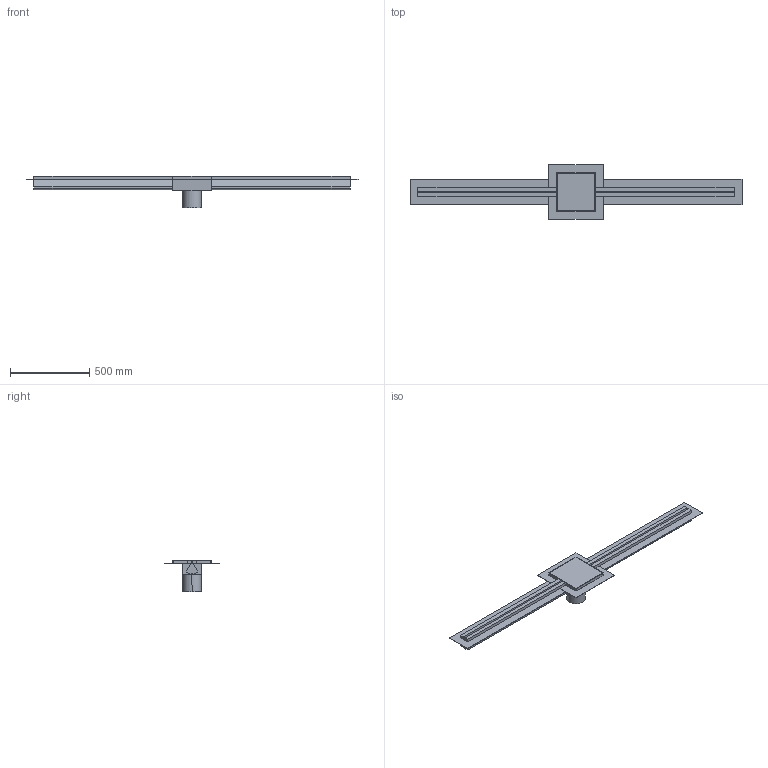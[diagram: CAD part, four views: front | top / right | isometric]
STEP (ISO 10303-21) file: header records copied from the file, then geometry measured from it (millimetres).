
FILE_DESCRIPTION(/* description */ (''),/* implementation_level */ '2;1');
FILE_NAME(/* name */ 'E:\Workspace\resitec\Packs\Kategorie\Entwässerungsrinne\STP\RS772K.65.245Schlitzrinne mit Rand 25mm AuslaufkastenM245mm-4xKR.s.ipt.stp',/* time_stamp */ '2020-10-04T20:57:21+02:00',/* author */ ('ndmes'),/* organization */ (''),/* preprocessor_version */ 'ST-DEVELOPER v18.1',/* originating_system */ 'Autodesk Inventor 2021',/* authorisation */ '');
FILE_SCHEMA (('AUTOMOTIVE_DESIGN { 1 0 10303 214 3 1 1 }'));
Length unit declared in the file: millimetre
Products named in the file (1): RS772K.65.245Schlitzrinne mit Rand 25mm AuslaufkastenM245mm-4xKR.s
Bounding box: 2100 x 345 x 200 mm (x, y, z)
Volume: 12728815.2 mm3; surface area: 1896472.6 mm2
Topology: 11 solids, 11 shells, 85 faces, 189 edges, 126 vertices
Faces by surface type: plane 83, cylinder 2
Entity records: 2342 total; most frequent: CARTESIAN_POINT 401, ORIENTED_EDGE 378, DIRECTION 365, EDGE_CURVE 189, LINE 185, VECTOR 185, VERTEX_POINT 126, AXIS2_PLACEMENT_3D 90
